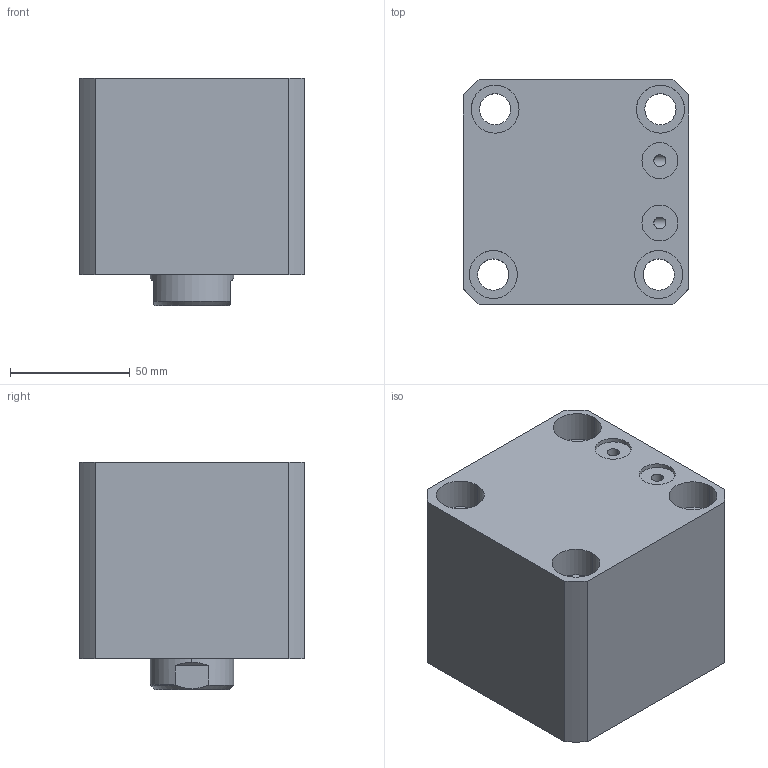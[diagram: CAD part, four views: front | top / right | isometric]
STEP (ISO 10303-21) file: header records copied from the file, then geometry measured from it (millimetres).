
FILE_DESCRIPTION (( 'STEP AP214' ), '1' );
FILE_NAME ('chtb-sdmb63x15n_asm.STEP', '2018-05-16T06:47:57', ( 'Windows' ), ( 'Microsoft' ), 'SwSTEP 2.0', 'SolidWorks 2015', '' );
FILE_SCHEMA (( 'AUTOMOTIVE_DESIGN' ));
Length unit declared in the file: millimetre
Products named in the file (4): chtb-sdmb63x15n_asm; CHTB-SDMB63X15NBT; CHTB63X15NHSG; CHTB-63QG
Assembly tree (3 placements, depth 2):
  chtb-sdmb63x15n_asm
    CHTB-63QG
    CHTB63X15NHSG
    CHTB-SDMB63X15NBT
Bounding box: 94 x 94 x 95 mm (x, y, z)
Volume: 624120.3 mm3; surface area: 115443.8 mm2
Topology: 3 solids, 3 shells, 164 faces, 468 edges, 318 vertices
Faces by surface type: cylinder 107, plane 30, bspline 12, cone 8, torus 7
Entity records: 17708 total; most frequent: CARTESIAN_POINT 13594, ORIENTED_EDGE 924, DIRECTION 707, EDGE_CURVE 462, VERTEX_POINT 318, AXIS2_PLACEMENT_3D 284, EDGE_LOOP 196, ADVANCED_FACE 164
